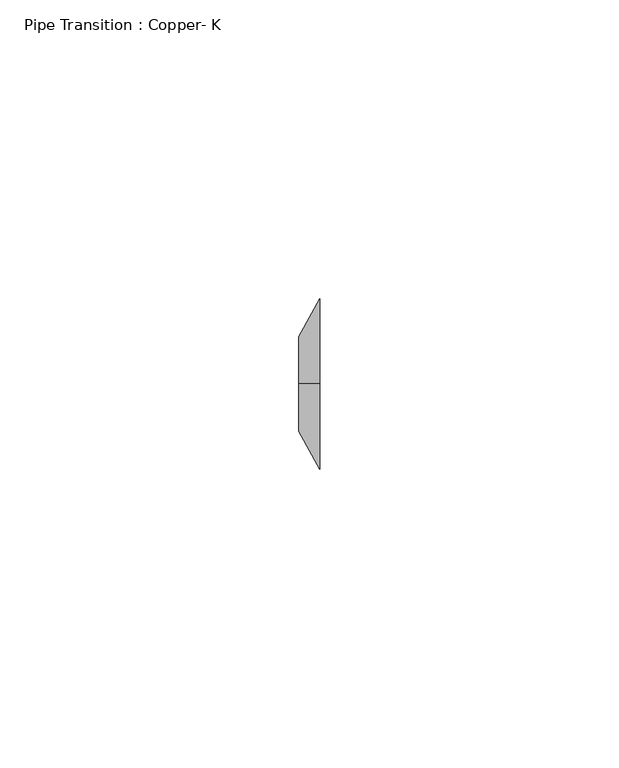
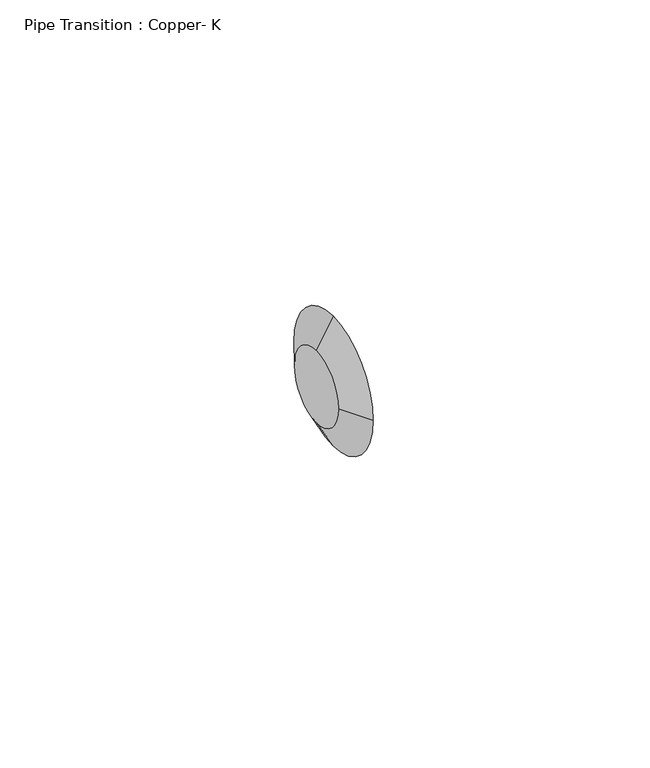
"""IFC4 building model written with IfcOpenShell, lengths in millimetres: pipe fitting geometry, Pipe Transition : Copper- K."""

from ifc_helpers import new_model, si_unit, frame, origin, place, context, project, spatial, polyline, circle_curve, source, transform, mapped, element, save
from ifc_brep_helpers import plane_surface, revolved_surface, advanced_brep


def pipe_transition_copper_k_63e0b6b0(model_context):
    return source(origin(), model_context, "Body", "AdvancedBrep", [
        advanced_brep(
        [(3.571875, 0.0, 14.2875), (3.571875, -14.2875, 0.0), (3.571875, 0.0, -14.2875), (3.571875, 14.2875, 0.0), (0.0, 0.0, 7.9375), (0.0, 7.9375, 0.0), (0.0, 0.0, -7.9375), (0.0, -7.9375, 0.0)],
        [
            (0, 1, circle_curve(frame((3.571875, 0.0, 0.0), z_axis=(1.0, 0.0, 0.0), x_axis=(0.0, 0.0, 1.0)), 14.2875)),
            (1, 2, circle_curve(frame((3.571875, 0.0, 0.0), z_axis=(1.0, 0.0, 0.0), x_axis=(0.0, -1.0, 0.0)), 14.2875)),
            (2, 3, circle_curve(frame((3.571875, 0.0, 0.0), z_axis=(1.0, 0.0, 0.0), x_axis=(0.0, 0.0, -1.0)), 14.2875)),
            (3, 0, circle_curve(frame((3.571875, 0.0, 0.0), z_axis=(1.0, 0.0, 0.0), x_axis=(0.0, 1.0, 0.0)), 14.2875)),
            (4, 5, circle_curve(frame((0.0, 0.0, 0.0), z_axis=(-1.0, 0.0, 0.0), x_axis=(0.0, 1.0, 0.0)), 7.9375)),
            (5, 6, circle_curve(frame((0.0, 0.0, 0.0), z_axis=(-1.0, 0.0, 0.0), x_axis=(0.0, 0.0, -1.0)), 7.9375)),
            (6, 7, circle_curve(frame((0.0, 0.0, 0.0), z_axis=(-1.0, 0.0, 0.0), x_axis=(0.0, -1.0, 0.0)), 7.9375)),
            (7, 4, circle_curve(frame((0.0, 0.0, 0.0), z_axis=(-1.0, 0.0, 0.0), x_axis=(0.0, 0.0, 1.0)), 7.9375)),
            (7, 1),
            (0, 4),
            (6, 2),
            (5, 3),
        ],
        [
            plane_surface(frame((3.571875, 0.0, 0.0), z_axis=(1.0, 0.0, 0.0), x_axis=(0.0, -1.0, 0.0))),
            plane_surface(frame((0.0, 0.0, 0.0), z_axis=(-1.0, 0.0, 0.0), x_axis=(0.0, -1.0, 0.0))),
            revolved_surface(polyline([(0.0, -7.937499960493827, 0.0), (3.5718749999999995, -14.2875, 0.0)]), (-4.4648437, 0.0, 0.0), (1.0, 0.0, 0.0)),
            revolved_surface(polyline([(0.0, 0.0, -7.937499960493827), (3.5718749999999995, 0.0, -14.2875)]), (-4.4648437, 0.0, 0.0), (1.0, 0.0, 0.0)),
            revolved_surface(polyline([(0.0, 7.937499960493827, 0.0), (3.5718749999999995, 14.2875, 0.0)]), (-4.4648437, 0.0, 0.0), (1.0, 0.0, 0.0)),
            revolved_surface(polyline([(0.0, 0.0, 7.937499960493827), (3.5718749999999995, 0.0, 14.2875)]), (-4.4648437, 0.0, 0.0), (1.0, 0.0, 0.0)),
        ],
        [
            (0, [[1, 2, 3, 4]]),
            (1, [[5, 6, 7, 8]]),
            (2, [[-8, 9, -1, 10]]),
            (3, [[-7, 11, -2, -9]]),
            (4, [[-6, 12, -3, -11]]),
            (5, [[-5, -10, -4, -12]]),
        ],
    ),
        advanced_brep(
        [(3.571875, 0.0, 14.2875), (3.571875, -14.2875, 0.0), (3.571875, 0.0, -14.2875), (3.571875, 14.2875, 0.0), (0.0, 0.0, 7.9375), (0.0, 7.9375, 0.0), (0.0, 0.0, -7.9375), (0.0, -7.9375, 0.0)],
        [
            (0, 1, circle_curve(frame((3.571875, 0.0, 0.0), z_axis=(1.0, 0.0, -2.3383567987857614e-12), x_axis=(2.338335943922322e-12, 0.0, 1.0)), 14.2875)),
            (1, 2, circle_curve(frame((3.571875, 0.0, 0.0), z_axis=(1.0, 0.0, -2.2436177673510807e-12), x_axis=(0.0, -1.0, 0.0)), 14.2875)),
            (2, 3, circle_curve(frame((3.571875, 0.0, 0.0), z_axis=(1.0, 0.0, -3.646393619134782e-12), x_axis=(-3.6464130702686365e-12, 0.0, -1.0)), 14.2875)),
            (3, 0, circle_curve(frame((3.571875, 0.0, 0.0), z_axis=(1.0, 0.0, 0.0), x_axis=(0.0, 1.0, 0.0)), 14.2875)),
            (4, 5, circle_curve(frame((0.0, 0.0, 0.0), z_axis=(-1.0, 0.0, 0.0), x_axis=(0.0, 1.0, 0.0)), 7.9375)),
            (5, 6, circle_curve(frame((0.0, 0.0, 0.0), z_axis=(-1.0, 0.0, 3.646393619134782e-12), x_axis=(-3.6464130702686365e-12, 0.0, -1.0)), 7.9375)),
            (6, 7, circle_curve(frame((0.0, 0.0, 0.0), z_axis=(-1.0, 0.0, 2.2436177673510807e-12), x_axis=(0.0, -1.0, 0.0)), 7.9375)),
            (7, 4, circle_curve(frame((0.0, 0.0, 0.0), z_axis=(-1.0, 0.0, 2.3383567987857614e-12), x_axis=(2.338335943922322e-12, 0.0, 1.0)), 7.9375)),
            (7, 1),
            (0, 4),
            (6, 2),
            (5, 3),
        ],
        [
            plane_surface(frame((3.571875, 0.0, 0.0), z_axis=(1.0, 0.0, 0.0), x_axis=(0.0, -1.0, 0.0))),
            plane_surface(frame((0.0, 0.0, 0.0), z_axis=(-1.0, 0.0, 0.0), x_axis=(0.0, -1.0, 0.0))),
            revolved_surface(polyline([(-1.8560264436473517e-11, -7.937499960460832, 0.0), (3.5718749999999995, -14.2875, 0.0)]), (-4.4648437, 0.0, 0.0), (1.0, 0.0, -2.3383567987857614e-12)),
            revolved_surface(polyline([(-1.780886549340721e-11, 0.0, -7.937499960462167), (3.5718749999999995, 0.0, -14.2875)]), (-4.4648437, 0.0, 0.0), (1.0, 0.0, -2.2436177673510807e-12)),
            revolved_surface(polyline([(0.0, 7.937499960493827, 0.0), (3.5718750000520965, 14.287500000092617, 0.0)]), (-4.4648437, 0.0, 0.0), (1.0, 0.0, -3.646393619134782e-12)),
            revolved_surface(polyline([(0.0, 0.0, 7.937499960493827), (3.5718749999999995, 0.0, 14.2875)]), (-4.4648437, 0.0, 0.0), (1.0, 0.0, 0.0)),
        ],
        [
            (0, [[1, 2, 3, 4]]),
            (1, [[5, 6, 7, 8]]),
            (2, [[-8, 9, -1, 10]]),
            (3, [[-7, 11, -2, -9]]),
            (4, [[-6, 12, -3, -11]]),
            (5, [[-5, -10, -4, -12]]),
        ],
    ),
    ])


if __name__ == "__main__":
    model = new_model("IFC4")
    model_context = context("Model", 3, world=origin())
    ifc_project = project(units=[si_unit("LENGTHUNIT", "METRE", prefix="MILLI")], contexts=[model_context])
    site = spatial("IfcSite", under=ifc_project)
    building = spatial("IfcBuilding", under=site)
    placement = place(None, origin())
    pipe_transition_copper_k_shape = pipe_transition_copper_k_63e0b6b0(model_context)
    element("IfcPipeFitting", 1, ObjectType="Pipe Transition : Copper- K", at=placement, inside=building, context=model_context, shape_type="MappedRepresentation", body=[
        mapped(pipe_transition_copper_k_shape, transform((0.0, 0.0, 0.0), x_axis=(1.0, 0.0, 0.0), y_axis=(0.0, 1.0, 0.0), z_axis=(0.0, 0.0, 1.0))),
    ])
    save(model, "model.ifc")
